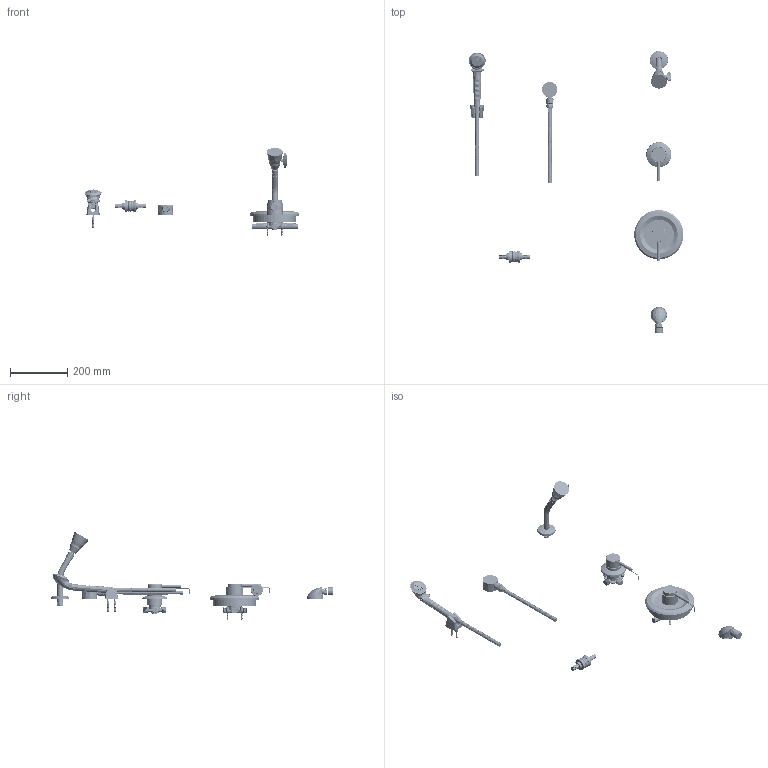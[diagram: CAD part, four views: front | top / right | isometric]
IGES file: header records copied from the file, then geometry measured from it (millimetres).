
Start section:  PTC IGES file: sh-pb5-37-040_rev030724.igs
Global section: file name: sh-pb5-37-040_rev030724.igs; native system: Creo Parametric by PTC Inc.; preprocessor: 2021184; author: rodjo; organization: Unknown; date: 20240307.121010; units: inch
Bounding box: 750.6 x 984.41 x 307.92 mm (x, y, z)
Surface area: 411624.9 mm2 (no closed solid volume)
Topology: 0 solids, 0 shells, 1995 faces, 16100 edges, 21932 vertices
Faces by surface type: revolution 1413, bspline 582
